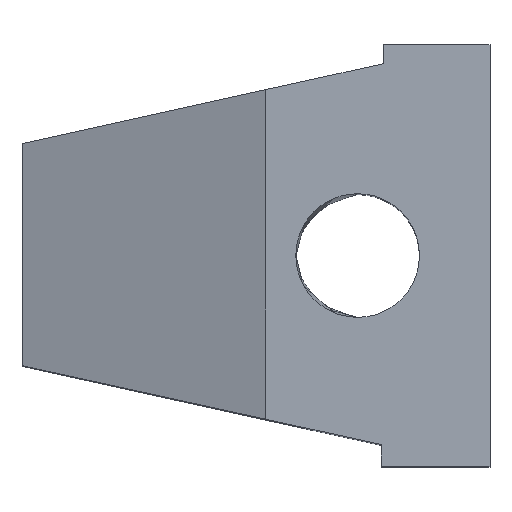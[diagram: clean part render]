
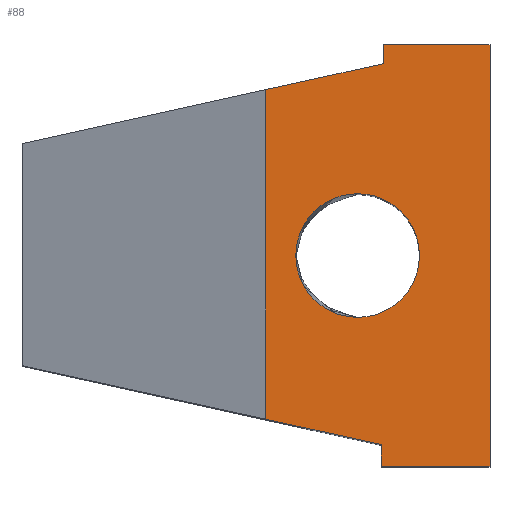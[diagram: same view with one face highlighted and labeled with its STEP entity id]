
A CAD part, top view. The second image highlights one B-rep face of the part: STEP entity #88.
In plain terms, the highlighted planar face has unit normal (0, 0, 1).
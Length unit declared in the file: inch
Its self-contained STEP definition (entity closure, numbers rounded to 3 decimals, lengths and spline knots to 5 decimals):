
#88=ADVANCED_FACE('',(#171,#172),#173,.T.);
#171=FACE_BOUND('',#282,.T.);
#172=FACE_OUTER_BOUND('',#283,.T.);
#173=PLANE('',#284);
#282=EDGE_LOOP('',(#465,#466,#467,#468));
#283=EDGE_LOOP('',(#469,#470,#471,#472,#473,#474,#475,#476));
#284=AXIS2_PLACEMENT_3D('',#477,#478,#479);
#465=ORIENTED_EDGE('',*,*,#597,.T.);
#466=ORIENTED_EDGE('',*,*,#587,.T.);
#467=ORIENTED_EDGE('',*,*,#557,.T.);
#468=ORIENTED_EDGE('',*,*,#543,.T.);
#469=ORIENTED_EDGE('',*,*,#569,.T.);
#470=ORIENTED_EDGE('',*,*,#576,.T.);
#471=ORIENTED_EDGE('',*,*,#513,.T.);
#472=ORIENTED_EDGE('',*,*,#599,.T.);
#473=ORIENTED_EDGE('',*,*,#553,.T.);
#474=ORIENTED_EDGE('',*,*,#535,.T.);
#475=ORIENTED_EDGE('',*,*,#565,.T.);
#476=ORIENTED_EDGE('',*,*,#601,.F.);
#477=CARTESIAN_POINT('',(1.25949,1.14303,1.60938));
#478=DIRECTION('',(0.0,0.0,1.0));
#479=DIRECTION('',(-1.0,0.0,-0.0));
#513=EDGE_CURVE('',#606,#607,#608,.T.);
#535=EDGE_CURVE('',#644,#645,#646,.T.);
#543=EDGE_CURVE('',#659,#657,#660,.T.);
#553=EDGE_CURVE('',#676,#644,#677,.T.);
#557=EDGE_CURVE('',#682,#659,#683,.T.);
#565=EDGE_CURVE('',#645,#694,#696,.T.);
#569=EDGE_CURVE('',#700,#701,#702,.T.);
#576=EDGE_CURVE('',#701,#606,#713,.T.);
#587=EDGE_CURVE('',#724,#682,#725,.T.);
#597=EDGE_CURVE('',#657,#724,#736,.T.);
#599=EDGE_CURVE('',#607,#676,#738,.T.);
#601=EDGE_CURVE('',#700,#694,#740,.T.);
#606=VERTEX_POINT('',#745);
#607=VERTEX_POINT('',#746);
#608=LINE('',#747,#748);
#644=VERTEX_POINT('',#815);
#645=VERTEX_POINT('',#816);
#646=LINE('',#817,#818);
#657=VERTEX_POINT('',#842);
#659=VERTEX_POINT('',#845);
#660=B_SPLINE_CURVE_WITH_KNOTS('',3,(#846,#847,#848,#849),.UNSPECIFIED.,.F.,.F.,(4,4),(0.0,1.0),.UNSPECIFIED.);
#676=VERTEX_POINT('',#875);
#677=LINE('',#876,#877);
#682=VERTEX_POINT('',#884);
#683=B_SPLINE_CURVE_WITH_KNOTS('',3,(#885,#886,#887,#888),.UNSPECIFIED.,.F.,.F.,(4,4),(0.0,1.0),.UNSPECIFIED.);
#694=VERTEX_POINT('',#906);
#696=LINE('',#909,#910);
#700=VERTEX_POINT('',#915);
#701=VERTEX_POINT('',#916);
#702=B_SPLINE_CURVE_WITH_KNOTS('',3,(#917,#918,#919,#920),.UNSPECIFIED.,.F.,.F.,(4,4),(0.0,0.40782),.UNSPECIFIED.);
#713=LINE('',#944,#945);
#724=VERTEX_POINT('',#962);
#725=B_SPLINE_CURVE_WITH_KNOTS('',3,(#963,#964,#965,#966),.UNSPECIFIED.,.F.,.F.,(4,4),(0.0,1.0),.UNSPECIFIED.);
#736=B_SPLINE_CURVE_WITH_KNOTS('',3,(#993,#994,#995,#996),.UNSPECIFIED.,.F.,.F.,(4,4),(0.0,1.0),.UNSPECIFIED.);
#738=LINE('',#998,#999);
#740=LINE('',#1001,#1002);
#745=CARTESIAN_POINT('',(1.27799,1.06816,1.60938));
#746=CARTESIAN_POINT('',(0.86274,0.9765,1.60938));
#747=CARTESIAN_POINT('',(0.95755,0.99743,1.60938));
#748=VECTOR('',#1006,1.0);
#815=CARTESIAN_POINT('',(1.27152,-0.27947,1.60938));
#816=CARTESIAN_POINT('',(1.27152,-0.35697,1.60938));
#817=CARTESIAN_POINT('',(1.27152,0.41111,1.60938));
#818=VECTOR('',#1021,1.0);
#842=CARTESIAN_POINT('',(0.96897,0.38947,1.60938));
#845=CARTESIAN_POINT('',(1.18772,0.17072,1.60938));
#846=CARTESIAN_POINT('',(1.18772,0.17072,1.60938));
#847=CARTESIAN_POINT('',(1.06691,0.17072,1.60938));
#848=CARTESIAN_POINT('',(0.96897,0.26865,1.60938));
#849=CARTESIAN_POINT('',(0.96897,0.38947,1.60938));
#875=CARTESIAN_POINT('',(0.86274,-0.18963,1.60938));
#876=CARTESIAN_POINT('',(0.79878,-0.17557,1.60938));
#877=VECTOR('',#1033,1.0);
#884=CARTESIAN_POINT('',(1.40647,0.38947,1.60938));
#885=CARTESIAN_POINT('',(1.40647,0.38947,1.60938));
#886=CARTESIAN_POINT('',(1.40647,0.26865,1.60938));
#887=CARTESIAN_POINT('',(1.30853,0.17072,1.60938));
#888=CARTESIAN_POINT('',(1.18772,0.17072,1.60938));
#906=CARTESIAN_POINT('',(1.65625,-0.35697,1.60938));
#909=CARTESIAN_POINT('',(0.86274,-0.35697,1.60938));
#910=VECTOR('',#1041,1.0);
#915=CARTESIAN_POINT('',(1.65625,1.1359,1.60938));
#916=CARTESIAN_POINT('',(1.27799,1.13601,1.60938));
#917=CARTESIAN_POINT('',(1.70625,1.1359,1.60938));
#918=CARTESIAN_POINT('',(1.57031,1.13592,1.60938));
#919=CARTESIAN_POINT('',(1.41312,1.13596,1.60938));
#920=CARTESIAN_POINT('',(1.27799,1.13601,1.60938));
#944=CARTESIAN_POINT('',(1.27799,1.12256,1.60938));
#945=VECTOR('',#1044,1.0);
#962=CARTESIAN_POINT('',(1.18772,0.60822,1.60938));
#963=CARTESIAN_POINT('',(1.18772,0.60822,1.60938));
#964=CARTESIAN_POINT('',(1.30853,0.60822,1.60938));
#965=CARTESIAN_POINT('',(1.40647,0.51028,1.60938));
#966=CARTESIAN_POINT('',(1.40647,0.38947,1.60938));
#993=CARTESIAN_POINT('',(0.96897,0.38947,1.60938));
#994=CARTESIAN_POINT('',(0.96897,0.51028,1.60938));
#995=CARTESIAN_POINT('',(1.06691,0.60822,1.60938));
#996=CARTESIAN_POINT('',(1.18772,0.60822,1.60938));
#998=CARTESIAN_POINT('',(0.86274,1.14303,1.60938));
#999=VECTOR('',#1054,1.0);
#1001=CARTESIAN_POINT('',(1.65625,1.14303,1.60938));
#1002=VECTOR('',#1055,1.0);
#1006=DIRECTION('',(-0.976,-0.216,0.0));
#1021=DIRECTION('',(0.0,-1.0,0.0));
#1033=DIRECTION('',(0.977,-0.215,0.0));
#1041=DIRECTION('',(1.0,0.0,0.0));
#1044=DIRECTION('',(0.0,-1.0,0.0));
#1054=DIRECTION('',(0.0,-1.0,0.0));
#1055=DIRECTION('',(0.0,-1.0,0.0));
